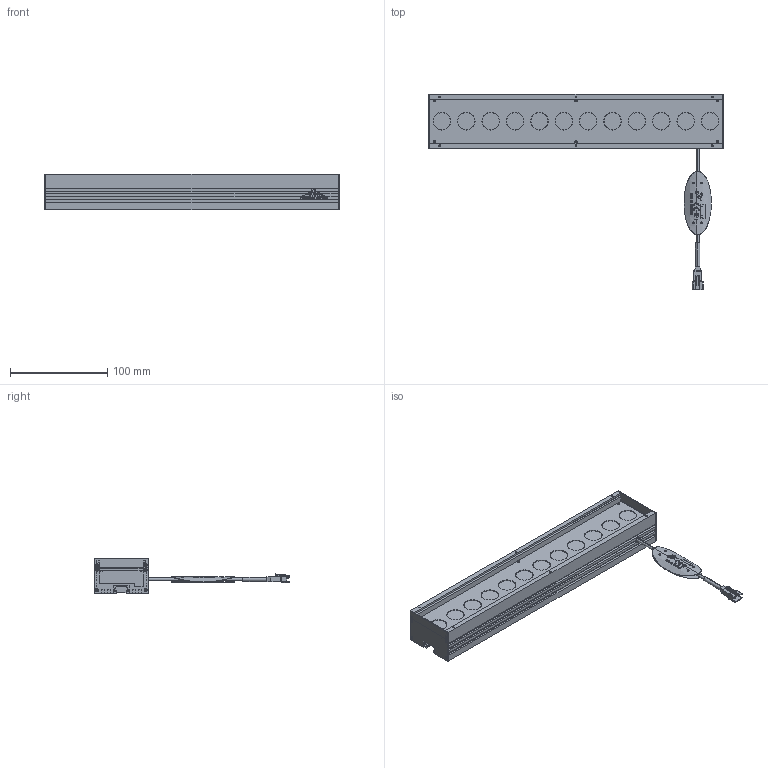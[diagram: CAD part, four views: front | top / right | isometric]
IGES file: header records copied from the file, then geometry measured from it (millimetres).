
Start section: 3D InterOp IGES (v. 2019 1.0.2), Spatial Corp. Copyright (c) 1999-2017.
Global section: file name: VBAL-30030_DRAWING_3D.iges; native system: Spatial Corp.; preprocessor: 3D InterOp ACIS/IGES; author: Noname; organization: Noname; date: 20231003.171644; units: millimetre
Bounding box: 302 x 200.2 x 36 mm (x, y, z)
Surface area: 158470.4 mm2 (no closed solid volume)
Topology: 0 solids, 0 shells, 1178 faces, 6498 edges, 6410 vertices
Faces by surface type: extrusion 618, revolution 518, bspline 42
